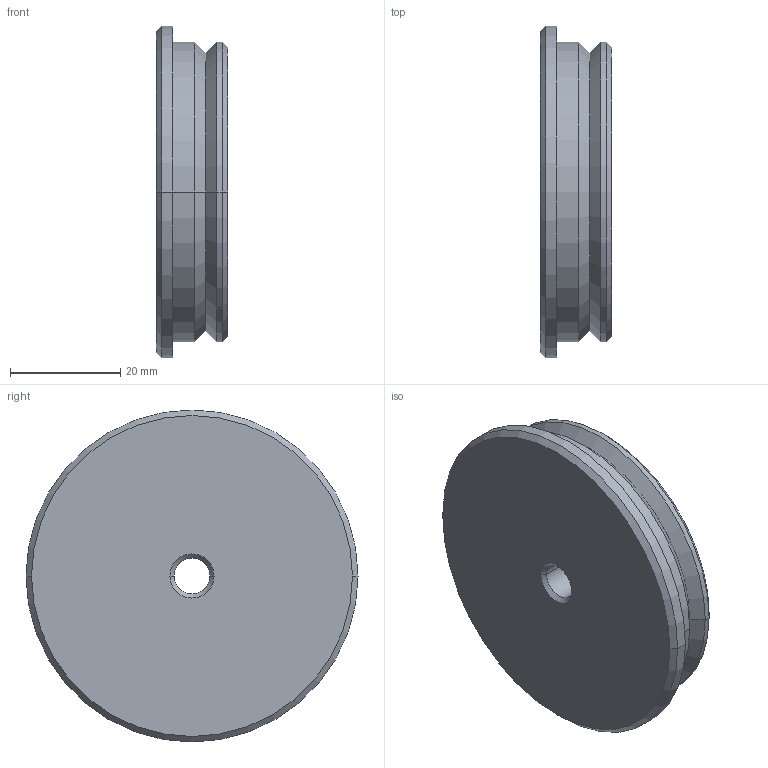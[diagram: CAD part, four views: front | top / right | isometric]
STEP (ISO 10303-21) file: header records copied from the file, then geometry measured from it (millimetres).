
FILE_DESCRIPTION(/* description */ ('(C) Elphel, Inc. 2012. Licensed under CERN OHL v.1.1 or later, see http://ohwr.org/cernohl'),/* implementation_level */ '2;1');
FILE_NAME(/* name */ '0353-25-13',/* time_stamp */ '2012-06-09T15:07:05-06:00',/* author */ (''),/* organization */ ('Elphel, Inc'),/* preprocessor_version */ 'ST-DEVELOPER v12',/* originating_system */ 'VariCAD 2012-1.04; kernel version (20100102)',/* authorisation */ '');
FILE_SCHEMA (('AUTOMOTIVE_DESIGN'));
Length unit declared in the file: millimetre
Products named in the file (1): Part
Bounding box: 13 x 60.33 x 60.33 mm (x, y, z)
Volume: 19964.1 mm3; surface area: 9057.8 mm2
Topology: 1 solids, 1 shells, 24 faces, 48 edges, 28 vertices
Faces by surface type: cylinder 10, cone 10, plane 4
Entity records: 655 total; most frequent: DIRECTION 128, CARTESIAN_POINT 102, ORIENTED_EDGE 96, AXIS2_PLACEMENT_3D 54, EDGE_CURVE 48, EDGE_LOOP 28, CIRCLE 28, VERTEX_POINT 28
